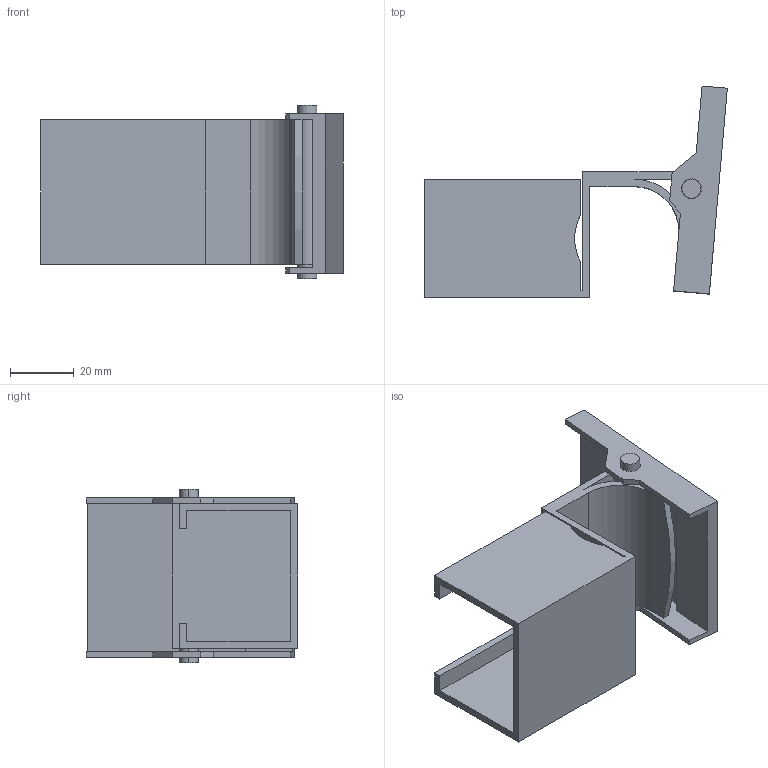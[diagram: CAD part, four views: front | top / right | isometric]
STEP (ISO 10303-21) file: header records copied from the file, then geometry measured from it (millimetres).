
FILE_DESCRIPTION (( 'STEP AP214' ), '1' );
FILE_NAME ('JB-501ST.step', '2023-12-26T02:43:33', ( 'catia' ), ( 'HP Inc.' ), 'SwSTEP 2.0', 'SolidWorks 2021', '' );
FILE_SCHEMA (( 'AUTOMOTIVE_DESIGN' ));
Length unit declared in the file: millimetre
Products named in the file (3): JB-501ST_1; JB-501ST_2; JB-501ST
Assembly tree (2 placements, depth 2):
  JB-501ST
    JB-501ST_1
    JB-501ST_2
Bounding box: 95.3 x 66.63 x 54.6 mm (x, y, z)
Volume: 40047.1 mm3; surface area: 33973.5 mm2
Topology: 2 solids, 2 shells, 62 faces, 168 edges, 112 vertices
Faces by surface type: plane 46, cylinder 16
Entity records: 2062 total; most frequent: CARTESIAN_POINT 347, ORIENTED_EDGE 336, DIRECTION 334, EDGE_CURVE 168, LINE 136, VECTOR 136, VERTEX_POINT 112, AXIS2_PLACEMENT_3D 99
